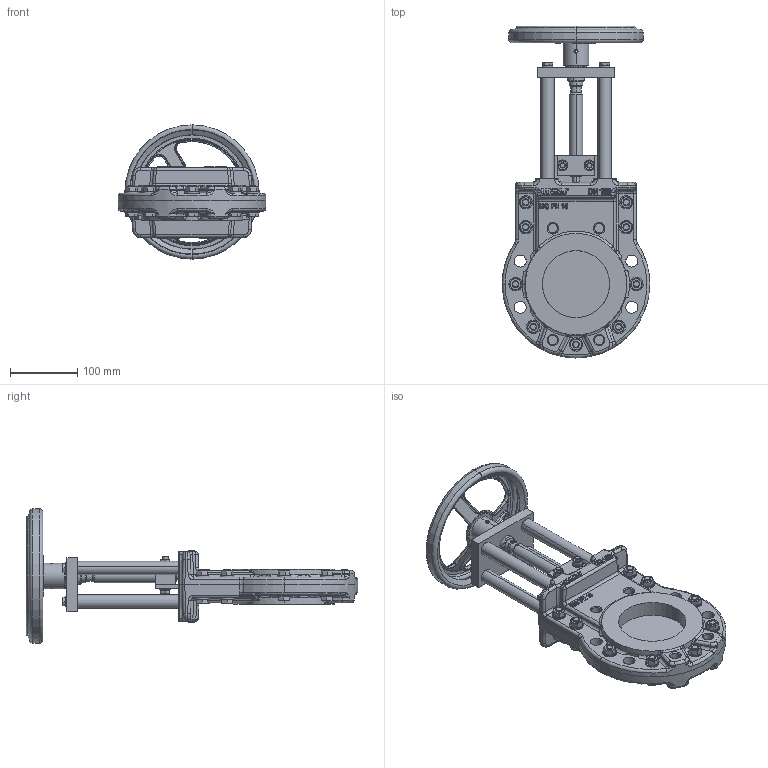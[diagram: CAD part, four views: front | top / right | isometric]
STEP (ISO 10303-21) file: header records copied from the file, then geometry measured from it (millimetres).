
FILE_DESCRIPTION (( 'STEP AP214' ), '1' );
FILE_NAME ('MGA DN 0100 PN16 (DH 200).STEP', '2015-09-23T08:03:05', ( 'admin' ), ( 'Hewlett-Packard Company' ), 'SwSTEP 2.0', 'SolidWorks 2013', '' );
FILE_SCHEMA (( 'AUTOMOTIVE_DESIGN' ));
Length unit declared in the file: millimetre
Products named in the file (1): MGA DN 0100 PN16 (DH 200)
Bounding box: 220 x 494.5 x 200 mm (x, y, z)
Volume: 2434930.4 mm3; surface area: 427696.2 mm2
Topology: 56 solids, 65 shells, 2145 faces, 4993 edges, 3026 vertices
Faces by surface type: plane 777, cylinder 535, cone 418, bspline 270, torus 122, sphere 23
Entity records: 99264 total; most frequent: CARTESIAN_POINT 27975, ORIENTED_EDGE 9918, DIRECTION 9514, EDGE_CURVE 4959, AXIS2_PLACEMENT_3D 3746, VERTEX_POINT 3026, EDGE_LOOP 2361, UNCERTAINTY_MEASURE_WITH_UNIT 2202
